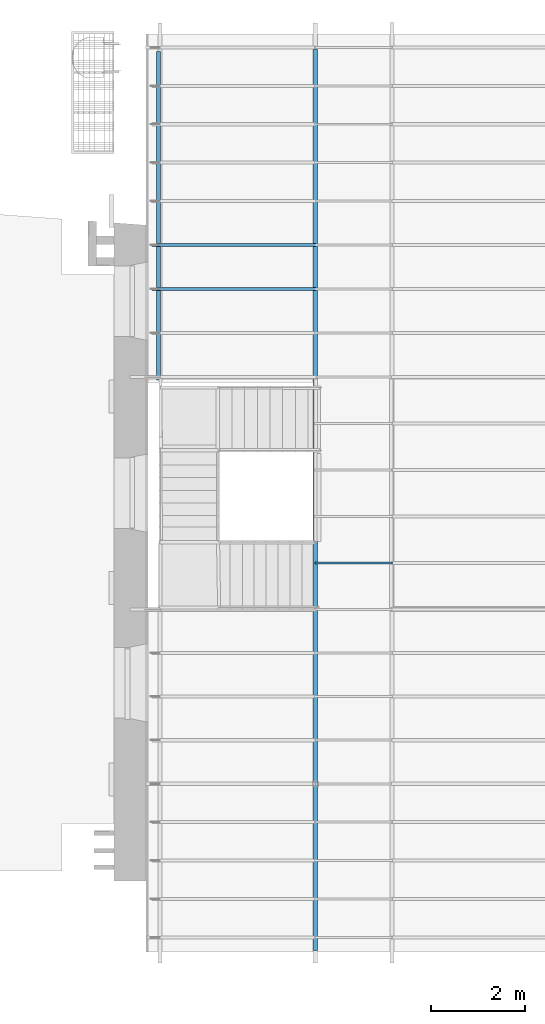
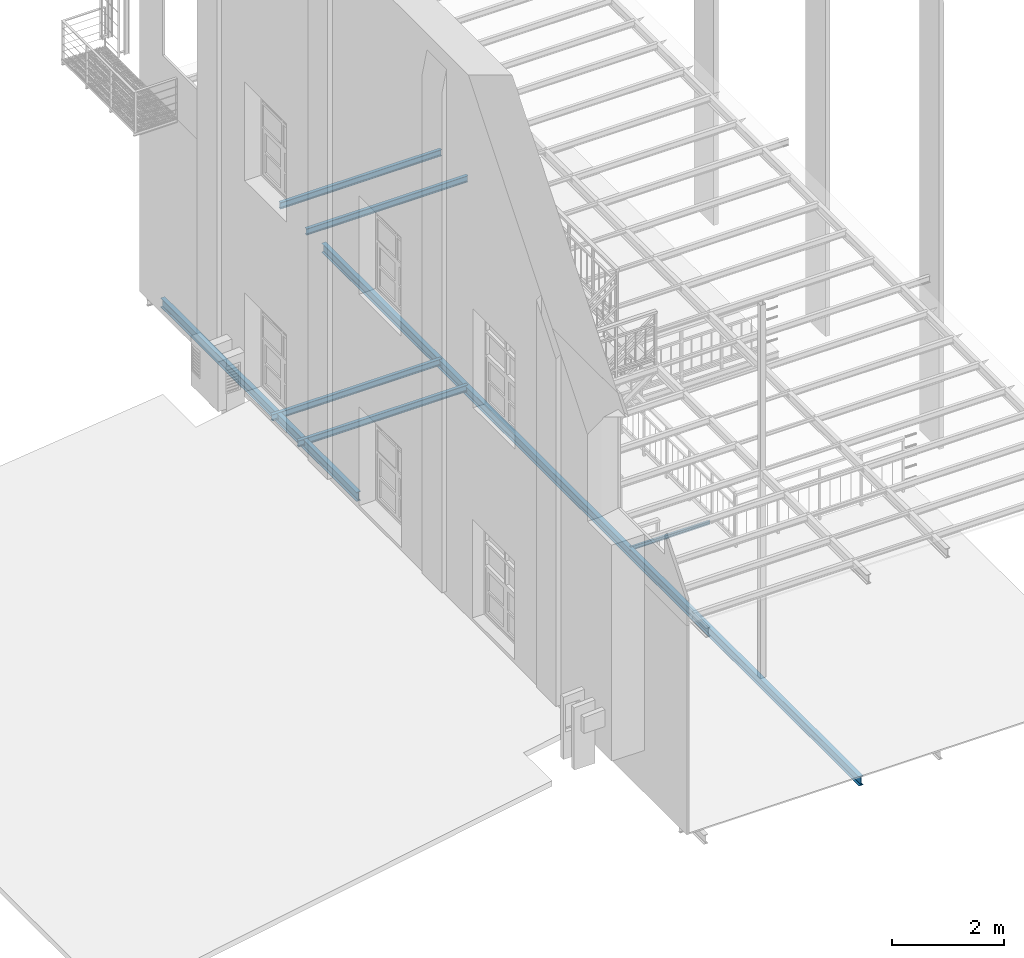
# One storey, part 12 of 33: 7 beams.
"""IFC2X3 building model written with IfcOpenShell, lengths in metres."""

from ifc_helpers import new_model, entity, si_unit, converted_unit, derived_unit, direction, frame, frame_2d, origin, place, context, subcontext, project, spatial, polyline, circle_curve, parameter, trimmed, segment, composite_curve, outline, extrude, material, type_object, element, save


model = new_model("IFC2X3")

# Units and contexts
model_context = context("Model", 3, precision=1e-05, world=origin(), true_north=direction((6.12303176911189e-17, 1.0)))
body_context = subcontext(model_context, "Body", "Model", "MODEL_VIEW")
ifc_project = project(units=[si_unit("LENGTHUNIT", "METRE"), si_unit("AREAUNIT", "SQUARE_METRE"), si_unit("VOLUMEUNIT", "CUBIC_METRE"), converted_unit("PLANEANGLEUNIT", "DEGREE", entity("IfcRatioMeasure", 0.0174532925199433), si_unit("PLANEANGLEUNIT", "RADIAN"), dimensions=[0, 0, 0, 0, 0, 0, 0]), si_unit("MASSUNIT", "GRAM", prefix="KILO"), derived_unit("MASSDENSITYUNIT", [(si_unit("MASSUNIT", "GRAM", prefix="KILO"), 1), (si_unit("LENGTHUNIT", "METRE"), -3)]), derived_unit("MOMENTOFINERTIAUNIT", [(si_unit("LENGTHUNIT", "METRE"), 4)]), si_unit("TIMEUNIT", "SECOND"), si_unit("FREQUENCYUNIT", "HERTZ"), si_unit("THERMODYNAMICTEMPERATUREUNIT", "DEGREE_CELSIUS"), derived_unit("THERMALTRANSMITTANCEUNIT", [(si_unit("MASSUNIT", "GRAM", prefix="KILO"), 1), (si_unit("THERMODYNAMICTEMPERATUREUNIT", "KELVIN"), -1), (si_unit("TIMEUNIT", "SECOND"), -3)]), derived_unit("VOLUMETRICFLOWRATEUNIT", [(si_unit("LENGTHUNIT", "METRE"), 3), (si_unit("TIMEUNIT", "SECOND"), -1)]), si_unit("ELECTRICCURRENTUNIT", "AMPERE"), si_unit("ELECTRICVOLTAGEUNIT", "VOLT"), si_unit("POWERUNIT", "WATT"), si_unit("FORCEUNIT", "NEWTON", prefix="KILO"), si_unit("ILLUMINANCEUNIT", "LUX"), si_unit("LUMINOUSFLUXUNIT", "LUMEN"), si_unit("LUMINOUSINTENSITYUNIT", "CANDELA"), derived_unit("USERDEFINED", [(si_unit("MASSUNIT", "GRAM", prefix="KILO"), -1), (si_unit("LENGTHUNIT", "METRE"), -2), (si_unit("TIMEUNIT", "SECOND"), 3), (si_unit("LUMINOUSFLUXUNIT", "LUMEN"), 1)]), derived_unit("LINEARVELOCITYUNIT", [(si_unit("LENGTHUNIT", "METRE"), 1), (si_unit("TIMEUNIT", "SECOND"), -1)]), si_unit("PRESSUREUNIT", "PASCAL"), derived_unit("USERDEFINED", [(si_unit("LENGTHUNIT", "METRE"), -2), (si_unit("MASSUNIT", "GRAM", prefix="KILO"), 1), (si_unit("TIMEUNIT", "SECOND"), -2)]), derived_unit("LINEARFORCEUNIT", [(si_unit("MASSUNIT", "GRAM", prefix="KILO"), 1), (si_unit("LENGTHUNIT", "METRE"), 1), (si_unit("TIMEUNIT", "SECOND"), -2), (si_unit("LENGTHUNIT", "METRE"), -1)]), derived_unit("PLANARFORCEUNIT", [(si_unit("MASSUNIT", "GRAM", prefix="KILO"), 1), (si_unit("LENGTHUNIT", "METRE"), 1), (si_unit("TIMEUNIT", "SECOND"), -2), (si_unit("LENGTHUNIT", "METRE"), -2)])], contexts=[model_context])

# Site, building, storey
site_placement = place(None, origin())
site = spatial("IfcSite", under=ifc_project, at=site_placement, Name="Superficie", CompositionType="ELEMENT")
building_placement = place(site_placement, origin())
building = spatial("IfcBuilding", under=site, at=building_placement, Name="Telegestiones", CompositionType="ELEMENT")
storey_placement = place(building_placement, frame((0.0, 0.0, 4.94)))
storey = spatial("IfcBuildingStorey", under=building, at=storey_placement, Name="Nivel 1_NPT", CompositionType="ELEMENT", Elevation=4.94)

# Beams
ifc_material = material(Name="Metal - Acero - 345 MPa")
beam_type_1 = type_object("IfcBeamType", Name="IPN - Secciones en I con alas cónicas:IPN 200", PredefinedType="NOTDEFINED")
beam_1_placement = place(storey_placement, frame((9.64481262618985, 13.4536072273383, 0.0), z_axis=(0.0, 0.0, 1.0), x_axis=(0.0, -1.0, 0.0)))
element("IfcBeam", 1, at=beam_1_placement, inside=storey, type_object=beam_type_1, material=ifc_material, Name="IPN - Secciones en I con alas cónicas:IPN 200", ObjectType="IPN - Secciones en I con alas cónicas:IPN 200", context=body_context, shape_type="SweptSolid", body=[
    extrude(outline(composite_curve([segment(polyline([(0.0957638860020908, -0.0450000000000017), (0.100000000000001, -0.0450000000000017)]), True, "CONTINUOUS"), segment(polyline([(0.100000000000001, -0.0450000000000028), (0.100000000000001, 0.0449999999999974)]), True, "CONTINUOUS"), segment(polyline([(0.100000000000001, 0.0449999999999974), (0.0957638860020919, 0.0449999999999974)]), True, "CONTINUOUS"), segment(trimmed(circle_curve(frame_2d((0.095763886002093, 0.0404999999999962), x_axis=(0.0, 1.0)), 0.00450000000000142), [parameter(0.0)], [parameter(82.0303896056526)], True, "PARAMETER"), True, "CONTINUOUS"), segment(polyline([(0.0913073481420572, 0.0411239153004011), (0.0869794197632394, 0.0102101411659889)]), True, "CONTINUOUS"), segment(trimmed(circle_curve(frame_2d((0.0795518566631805, 0.0112499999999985), x_axis=(0.990341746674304, -0.138647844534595)), 0.00750000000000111), [parameter(277.96961039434)], [parameter(0.0)], True, "PARAMETER"), False, "CONTINUOUS"), segment(polyline([(0.0795518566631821, 0.00374999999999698), (-0.079551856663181, 0.00374999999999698)]), True, "CONTINUOUS"), segment(trimmed(circle_curve(frame_2d((-0.07955185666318, 0.0112499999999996), x_axis=(0.0, -1.0)), 0.00750000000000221), [parameter(277.96961039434)], [parameter(0.0)], True, "PARAMETER"), False, "CONTINUOUS"), segment(polyline([(-0.0869794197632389, 0.0102101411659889), (-0.0913073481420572, 0.0411239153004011)]), True, "CONTINUOUS"), segment(trimmed(circle_curve(frame_2d((-0.0957638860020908, 0.0404999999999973), x_axis=(0.990341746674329, 0.138647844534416)), 0.00450000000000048), [parameter(0.0)], [parameter(82.0303896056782)], True, "PARAMETER"), True, "CONTINUOUS"), segment(polyline([(-0.0957638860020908, 0.0449999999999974), (-0.0999999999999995, 0.0449999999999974)]), True, "CONTINUOUS"), segment(polyline([(-0.0999999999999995, 0.0449999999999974), (-0.0999999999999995, -0.0450000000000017)]), True, "CONTINUOUS"), segment(polyline([(-0.0999999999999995, -0.0450000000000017), (-0.0957638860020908, -0.0450000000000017)]), True, "CONTINUOUS"), segment(trimmed(circle_curve(frame_2d((-0.0957638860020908, -0.0405000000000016), x_axis=(0.0, -1.0)), 0.00450000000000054), [parameter(0.0)], [parameter(82.0303896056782)], True, "PARAMETER"), True, "CONTINUOUS"), segment(polyline([(-0.0913073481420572, -0.0411239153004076), (-0.0869794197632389, -0.0102101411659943)]), True, "CONTINUOUS"), segment(trimmed(circle_curve(frame_2d((-0.07955185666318, -0.0112500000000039), x_axis=(-0.990341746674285, 0.138647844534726)), 0.00750000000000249), [parameter(277.969610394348)], [parameter(0.0)], True, "PARAMETER"), False, "CONTINUOUS"), segment(polyline([(-0.079551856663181, -0.0037500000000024), (0.079551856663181, -0.0037500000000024)]), True, "CONTINUOUS"), segment(trimmed(circle_curve(frame_2d((0.0795518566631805, -0.0112500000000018), x_axis=(0.0, 1.0)), 0.0075000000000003), [parameter(277.969610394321)], [parameter(0.0)], True, "PARAMETER"), False, "CONTINUOUS"), segment(polyline([(0.0869794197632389, -0.0102101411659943), (0.0913073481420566, -0.0411239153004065)]), True, "CONTINUOUS"), segment(trimmed(circle_curve(frame_2d((0.0957638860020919, -0.0405000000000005), x_axis=(-0.9903417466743, -0.138647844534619)), 0.00450000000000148), [parameter(0.0)], [parameter(82.0303896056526)], True, "PARAMETER"), True, "CONTINUOUS")], self_intersect=False)), frame((0.0419999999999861, 0.0, -0.130000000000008), z_axis=(1.0, 0.0, 0.0), x_axis=(0.0, 0.0, -1.0)), (0.0, 0.0, 1.0), 19.193),
])
beam_2_placement = place(storey_placement, frame((6.30181262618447, 6.43560722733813, 0.0), z_axis=(0.0, 0.0, 1.0), x_axis=(0.0, 1.0, 0.0)))
element("IfcBeam", 2, at=beam_2_placement, inside=storey, type_object=beam_type_1, material=ifc_material, Name="IPN - Secciones en I con alas cónicas:IPN 200", ObjectType="IPN - Secciones en I con alas cónicas:IPN 200", context=body_context, shape_type="SweptSolid", body=[
    extrude(outline(composite_curve([segment(polyline([(0.0957638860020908, -0.0449999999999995), (0.100000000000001, -0.0449999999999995)]), True, "CONTINUOUS"), segment(polyline([(0.100000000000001, -0.0449999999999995), (0.100000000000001, 0.0449999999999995)]), True, "CONTINUOUS"), segment(polyline([(0.100000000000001, 0.0449999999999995), (0.0957638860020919, 0.0449999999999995)]), True, "CONTINUOUS"), segment(trimmed(circle_curve(frame_2d((0.095763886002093, 0.0404999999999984), x_axis=(0.0, 1.0)), 0.00450000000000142), [parameter(0.0)], [parameter(82.0303896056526)], True, "PARAMETER"), True, "CONTINUOUS"), segment(polyline([(0.0913073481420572, 0.0411239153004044), (0.0869794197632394, 0.0102101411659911)]), True, "CONTINUOUS"), segment(trimmed(circle_curve(frame_2d((0.0795518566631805, 0.0112500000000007), x_axis=(0.990341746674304, -0.138647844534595)), 0.00750000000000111), [parameter(277.96961039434)], [parameter(0.0)], True, "PARAMETER"), False, "CONTINUOUS"), segment(polyline([(0.0795518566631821, 0.00374999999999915), (-0.079551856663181, 0.00374999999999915)]), True, "CONTINUOUS"), segment(trimmed(circle_curve(frame_2d((-0.07955185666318, 0.0112500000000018), x_axis=(0.0, -1.0)), 0.00750000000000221), [parameter(277.96961039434)], [parameter(0.0)], True, "PARAMETER"), False, "CONTINUOUS"), segment(polyline([(-0.0869794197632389, 0.0102101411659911), (-0.0913073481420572, 0.0411239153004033)]), True, "CONTINUOUS"), segment(trimmed(circle_curve(frame_2d((-0.0957638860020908, 0.0404999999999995), x_axis=(0.990341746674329, 0.138647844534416)), 0.00450000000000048), [parameter(0.0)], [parameter(82.0303896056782)], True, "PARAMETER"), True, "CONTINUOUS"), segment(polyline([(-0.0957638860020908, 0.0449999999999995), (-0.0999999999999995, 0.0449999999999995)]), True, "CONTINUOUS"), segment(polyline([(-0.0999999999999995, 0.0449999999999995), (-0.0999999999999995, -0.0449999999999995)]), True, "CONTINUOUS"), segment(polyline([(-0.0999999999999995, -0.0449999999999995), (-0.0957638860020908, -0.0449999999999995)]), True, "CONTINUOUS"), segment(trimmed(circle_curve(frame_2d((-0.0957638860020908, -0.0404999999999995), x_axis=(0.0, -1.0)), 0.00450000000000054), [parameter(0.0)], [parameter(82.0303896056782)], True, "PARAMETER"), True, "CONTINUOUS"), segment(polyline([(-0.0913073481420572, -0.0411239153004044), (-0.0869794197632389, -0.0102101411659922)]), True, "CONTINUOUS"), segment(trimmed(circle_curve(frame_2d((-0.07955185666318, -0.0112500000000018), x_axis=(-0.990341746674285, 0.138647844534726)), 0.00750000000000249), [parameter(277.969610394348)], [parameter(0.0)], True, "PARAMETER"), False, "CONTINUOUS"), segment(polyline([(-0.079551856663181, -0.00375000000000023), (0.079551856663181, -0.00375000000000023)]), True, "CONTINUOUS"), segment(trimmed(circle_curve(frame_2d((0.0795518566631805, -0.0112499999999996), x_axis=(0.0, 1.0)), 0.0075000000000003), [parameter(277.969610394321)], [parameter(0.0)], True, "PARAMETER"), False, "CONTINUOUS"), segment(polyline([(0.0869794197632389, -0.0102101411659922), (0.0913073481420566, -0.0411239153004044)]), True, "CONTINUOUS"), segment(trimmed(circle_curve(frame_2d((0.0957638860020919, -0.0404999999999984), x_axis=(-0.9903417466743, -0.138647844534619)), 0.00450000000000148), [parameter(0.0)], [parameter(82.0303896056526)], True, "PARAMETER"), True, "CONTINUOUS")], self_intersect=False)), frame((-0.0600000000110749, 0.0, -0.130000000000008), z_axis=(1.0, 0.0, 0.0), x_axis=(0.0, 0.0, -1.0)), (0.0, 0.0, 1.0), 6.995),
])
beam_type_2 = type_object("IfcBeamType", Name="IPN - Secciones en I con alas cónicas:IPN 140", PredefinedType="NOTDEFINED")
beam_3_placement = place(storey_placement, frame((6.16481262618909, 9.25260722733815, 0.0)))
element("IfcBeam", 3, at=beam_3_placement, inside=storey, type_object=beam_type_2, material=ifc_material, Name="IPN - Secciones en I con alas cónicas:IPN 140", ObjectType="IPN - Secciones en I con alas cónicas:IPN 140", context=body_context, shape_type="SweptSolid", body=[
    extrude(outline(composite_curve([segment(polyline([(0.0666671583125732, -0.0330000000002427), (0.0699999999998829, -0.0330000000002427)]), True, "CONTINUOUS"), segment(polyline([(0.0699999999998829, -0.0330000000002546), (0.0700000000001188, 0.0329999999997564)]), True, "CONTINUOUS"), segment(polyline([(0.0700000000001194, 0.0329999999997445), (0.0666671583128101, 0.0329999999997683)]), True, "CONTINUOUS"), segment(trimmed(circle_curve(frame_2d((0.0666671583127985, 0.0295999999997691), x_axis=(0.0, 1.0)), 0.00340000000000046), [parameter(0.0)], [parameter(82.0303896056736)], True, "PARAMETER"), True, "CONTINUOUS"), segment(polyline([(0.0632999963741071, 0.030071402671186), (0.0601763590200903, 0.00775970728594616)]), True, "CONTINUOUS"), segment(trimmed(circle_curve(frame_2d((0.0545314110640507, 0.00854999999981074), x_axis=(0.990341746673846, -0.138647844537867)), 0.00569999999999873), [parameter(277.969610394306)], [parameter(0.0)], True, "PARAMETER"), False, "CONTINUOUS"), segment(polyline([(0.0545314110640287, 0.00284999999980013), (-0.0545314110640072, 0.00285000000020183)]), True, "CONTINUOUS"), segment(trimmed(circle_curve(frame_2d((-0.0545314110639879, 0.00855000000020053), x_axis=(0.0, -1.0)), 0.00569999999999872), [parameter(277.969610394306)], [parameter(0.0)], True, "PARAMETER"), False, "CONTINUOUS"), segment(polyline([(-0.0601763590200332, 0.00775970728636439), (-0.06329999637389, 0.0300714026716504)]), True, "CONTINUOUS"), segment(trimmed(circle_curve(frame_2d((-0.0666671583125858, 0.0296000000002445), x_axis=(0.990341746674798, 0.138647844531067)), 0.00340000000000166), [parameter(0.0)], [parameter(82.0303896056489)], True, "PARAMETER"), True, "CONTINUOUS"), segment(polyline([(-0.0666671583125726, 0.0330000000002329), (-0.0699999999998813, 0.0330000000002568)]), True, "CONTINUOUS"), segment(polyline([(-0.0699999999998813, 0.0330000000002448), (-0.0700000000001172, -0.0329999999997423)]), True, "CONTINUOUS"), segment(polyline([(-0.0700000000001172, -0.0329999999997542), (-0.0666671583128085, -0.0329999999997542)]), True, "CONTINUOUS"), segment(trimmed(circle_curve(frame_2d((-0.0666671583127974, -0.0295999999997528), x_axis=(0.0, -1.0)), 0.00340000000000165), [parameter(0.0)], [parameter(82.0303896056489)], True, "PARAMETER"), True, "CONTINUOUS"), segment(polyline([(-0.0632999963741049, -0.0300714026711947), (-0.0601763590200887, -0.007759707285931)]), True, "CONTINUOUS"), segment(trimmed(circle_curve(frame_2d((-0.054531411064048, -0.00854999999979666), x_axis=(-0.990341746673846, 0.138647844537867)), 0.00569999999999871), [parameter(277.969610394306)], [parameter(0.0)], True, "PARAMETER"), False, "CONTINUOUS"), segment(polyline([(-0.0545314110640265, -0.00284999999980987), (0.0545314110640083, -0.00285000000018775)]), True, "CONTINUOUS"), segment(trimmed(circle_curve(frame_2d((0.054531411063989, -0.00855000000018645), x_axis=(0.0, 1.0)), 0.0056999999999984), [parameter(277.969610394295)], [parameter(0.0)], True, "PARAMETER"), False, "CONTINUOUS"), segment(polyline([(0.0601763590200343, -0.00775970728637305), (0.0632999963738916, -0.0300714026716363)]), True, "CONTINUOUS"), segment(trimmed(circle_curve(frame_2d((0.0666671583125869, -0.0296000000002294), x_axis=(-0.990341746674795, -0.138647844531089)), 0.00340000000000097), [parameter(0.0)], [parameter(82.0303896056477)], True, "PARAMETER"), True, "CONTINUOUS")], self_intersect=False)), frame((0.0, 0.0, -0.100000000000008), z_axis=(1.0, 0.0, 0.0), x_axis=(0.0, 0.0, -1.0)), (0.0, 0.0, 1.0), 3.495),
])
beam_4_placement = place(storey_placement, frame((6.16481262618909, 8.31360722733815, 0.0)))
element("IfcBeam", 4, at=beam_4_placement, inside=storey, type_object=beam_type_2, material=ifc_material, Name="IPN - Secciones en I con alas cónicas:IPN 140", ObjectType="IPN - Secciones en I con alas cónicas:IPN 140", context=body_context, shape_type="SweptSolid", body=[
    extrude(outline(composite_curve([segment(polyline([(0.0666671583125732, -0.0330000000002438), (0.0699999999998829, -0.0330000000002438)]), True, "CONTINUOUS"), segment(polyline([(0.0699999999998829, -0.0330000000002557), (0.0700000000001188, 0.0329999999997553)]), True, "CONTINUOUS"), segment(polyline([(0.0700000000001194, 0.0329999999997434), (0.0666671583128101, 0.0329999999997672)]), True, "CONTINUOUS"), segment(trimmed(circle_curve(frame_2d((0.0666671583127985, 0.029599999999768), x_axis=(0.0, 1.0)), 0.00340000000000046), [parameter(0.0)], [parameter(82.0303896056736)], True, "PARAMETER"), True, "CONTINUOUS"), segment(polyline([(0.0632999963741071, 0.0300714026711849), (0.0601763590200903, 0.00775970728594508)]), True, "CONTINUOUS"), segment(trimmed(circle_curve(frame_2d((0.0545314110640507, 0.00854999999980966), x_axis=(0.990341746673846, -0.138647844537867)), 0.00569999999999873), [parameter(277.969610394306)], [parameter(0.0)], True, "PARAMETER"), False, "CONTINUOUS"), segment(polyline([(0.0545314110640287, 0.00284999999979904), (-0.0545314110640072, 0.00285000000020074)]), True, "CONTINUOUS"), segment(trimmed(circle_curve(frame_2d((-0.0545314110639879, 0.00855000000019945), x_axis=(0.0, -1.0)), 0.00569999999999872), [parameter(277.969610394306)], [parameter(0.0)], True, "PARAMETER"), False, "CONTINUOUS"), segment(polyline([(-0.0601763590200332, 0.00775970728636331), (-0.06329999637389, 0.0300714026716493)]), True, "CONTINUOUS"), segment(trimmed(circle_curve(frame_2d((-0.0666671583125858, 0.0296000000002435), x_axis=(0.990341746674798, 0.138647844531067)), 0.00340000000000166), [parameter(0.0)], [parameter(82.0303896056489)], True, "PARAMETER"), True, "CONTINUOUS"), segment(polyline([(-0.0666671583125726, 0.0330000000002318), (-0.0699999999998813, 0.0330000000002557)]), True, "CONTINUOUS"), segment(polyline([(-0.0699999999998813, 0.0330000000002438), (-0.0700000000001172, -0.0329999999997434)]), True, "CONTINUOUS"), segment(polyline([(-0.0700000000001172, -0.0329999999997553), (-0.0666671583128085, -0.0329999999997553)]), True, "CONTINUOUS"), segment(trimmed(circle_curve(frame_2d((-0.0666671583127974, -0.0295999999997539), x_axis=(0.0, -1.0)), 0.00340000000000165), [parameter(0.0)], [parameter(82.0303896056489)], True, "PARAMETER"), True, "CONTINUOUS"), segment(polyline([(-0.0632999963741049, -0.0300714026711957), (-0.0601763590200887, -0.00775970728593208)]), True, "CONTINUOUS"), segment(trimmed(circle_curve(frame_2d((-0.054531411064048, -0.00854999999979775), x_axis=(-0.990341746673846, 0.138647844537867)), 0.00569999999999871), [parameter(277.969610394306)], [parameter(0.0)], True, "PARAMETER"), False, "CONTINUOUS"), segment(polyline([(-0.0545314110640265, -0.00284999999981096), (0.0545314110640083, -0.00285000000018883)]), True, "CONTINUOUS"), segment(trimmed(circle_curve(frame_2d((0.054531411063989, -0.00855000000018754), x_axis=(0.0, 1.0)), 0.0056999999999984), [parameter(277.969610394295)], [parameter(0.0)], True, "PARAMETER"), False, "CONTINUOUS"), segment(polyline([(0.0601763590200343, -0.00775970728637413), (0.0632999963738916, -0.0300714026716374)]), True, "CONTINUOUS"), segment(trimmed(circle_curve(frame_2d((0.0666671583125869, -0.0296000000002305), x_axis=(-0.990341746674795, -0.138647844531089)), 0.00340000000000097), [parameter(0.0)], [parameter(82.0303896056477)], True, "PARAMETER"), True, "CONTINUOUS")], self_intersect=False)), frame((0.0, 0.0, -0.100000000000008), z_axis=(1.0, 0.0, 0.0), x_axis=(0.0, 0.0, -1.0)), (0.0, 0.0, 1.0), 3.495),
])
beam_5_placement = place(storey_placement, frame((6.33481262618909, 9.25260722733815, 4.56)))
element("IfcBeam", 5, at=beam_5_placement, inside=storey, type_object=beam_type_2, material=ifc_material, Name="IPN - Secciones en I con alas cónicas:IPN 140", ObjectType="IPN - Secciones en I con alas cónicas:IPN 140", context=body_context, shape_type="SweptSolid", body=[
    extrude(outline(composite_curve([segment(polyline([(0.0666671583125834, -0.0330000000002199), (0.0699999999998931, -0.0330000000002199)]), True, "CONTINUOUS"), segment(polyline([(0.0699999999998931, -0.0330000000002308), (0.0700000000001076, 0.0329999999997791)]), True, "CONTINUOUS"), segment(polyline([(0.0700000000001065, 0.0329999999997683), (0.0666671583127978, 0.03299999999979)]), True, "CONTINUOUS"), segment(trimmed(circle_curve(frame_2d((0.0666671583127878, 0.0295999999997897), x_axis=(0.0, 1.0)), 0.00340000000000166), [parameter(0.0)], [parameter(82.0303896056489)], True, "PARAMETER"), True, "CONTINUOUS"), segment(polyline([(0.0632999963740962, 0.0300714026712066), (0.0601763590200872, 0.00775970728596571)]), True, "CONTINUOUS"), segment(trimmed(circle_curve(frame_2d((0.0545314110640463, 0.00854999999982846), x_axis=(0.990341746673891, -0.138647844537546)), 0.00569999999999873), [parameter(277.969610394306)], [parameter(0.0)], True, "PARAMETER"), False, "CONTINUOUS"), segment(polyline([(0.0545314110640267, 0.00284999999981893), (-0.0545314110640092, 0.00285000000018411)]), True, "CONTINUOUS"), segment(trimmed(circle_curve(frame_2d((-0.0545314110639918, 0.00855000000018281), x_axis=(0.0, -1.0)), 0.00569999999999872), [parameter(277.969610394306)], [parameter(0.0)], True, "PARAMETER"), False, "CONTINUOUS"), segment(polyline([(-0.0601763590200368, 0.00775970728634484), (-0.0632999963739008, 0.0300714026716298)]), True, "CONTINUOUS"), segment(trimmed(circle_curve(frame_2d((-0.0666671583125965, 0.0296000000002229), x_axis=(0.990341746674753, 0.138647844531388)), 0.00340000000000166), [parameter(0.0)], [parameter(82.0303896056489)], True, "PARAMETER"), True, "CONTINUOUS"), segment(polyline([(-0.0666671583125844, 0.0330000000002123), (-0.0699999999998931, 0.033000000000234)]), True, "CONTINUOUS"), segment(polyline([(-0.0699999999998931, 0.0330000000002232), (-0.0700000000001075, -0.0329999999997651)]), True, "CONTINUOUS"), segment(polyline([(-0.0700000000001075, -0.0329999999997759), (-0.0666671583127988, -0.0329999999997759)]), True, "CONTINUOUS"), segment(trimmed(circle_curve(frame_2d((-0.0666671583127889, -0.0295999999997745), x_axis=(0.0, -1.0)), 0.00340000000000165), [parameter(0.0)], [parameter(82.0303896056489)], True, "PARAMETER"), True, "CONTINUOUS"), segment(polyline([(-0.0632999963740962, -0.0300714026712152), (-0.0601763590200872, -0.00775970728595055)]), True, "CONTINUOUS"), segment(trimmed(circle_curve(frame_2d((-0.0545314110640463, -0.00854999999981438), x_axis=(-0.990341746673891, 0.138647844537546)), 0.00569999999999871), [parameter(277.969610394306)], [parameter(0.0)], True, "PARAMETER"), False, "CONTINUOUS"), segment(polyline([(-0.0545314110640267, -0.00284999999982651), (0.0545314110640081, -0.00285000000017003)]), True, "CONTINUOUS"), segment(trimmed(circle_curve(frame_2d((0.0545314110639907, -0.00855000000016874), x_axis=(0.0, 1.0)), 0.0056999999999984), [parameter(277.969610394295)], [parameter(0.0)], True, "PARAMETER"), False, "CONTINUOUS"), segment(polyline([(0.0601763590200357, -0.0077597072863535), (0.0632999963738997, -0.0300714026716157)]), True, "CONTINUOUS"), segment(trimmed(circle_curve(frame_2d((0.0666671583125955, -0.0296000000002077), x_axis=(-0.990341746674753, -0.138647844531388)), 0.00340000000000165), [parameter(0.0)], [parameter(82.0303896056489)], True, "PARAMETER"), True, "CONTINUOUS")], self_intersect=False)), frame((0.0, 0.0, -0.100000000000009), z_axis=(1.0, 0.0, 0.0), x_axis=(0.0, 0.0, -1.0)), (0.0, 0.0, 1.0), 3.325),
])
beam_6_placement = place(storey_placement, frame((6.33481262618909, 8.31360722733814, 4.56)))
element("IfcBeam", 6, at=beam_6_placement, inside=storey, type_object=beam_type_2, material=ifc_material, Name="IPN - Secciones en I con alas cónicas:IPN 140", ObjectType="IPN - Secciones en I con alas cónicas:IPN 140", context=body_context, shape_type="SweptSolid", body=[
    extrude(outline(composite_curve([segment(polyline([(0.0666671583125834, -0.033000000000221), (0.0699999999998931, -0.033000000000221)]), True, "CONTINUOUS"), segment(polyline([(0.0699999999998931, -0.0330000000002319), (0.0700000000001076, 0.0329999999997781)]), True, "CONTINUOUS"), segment(polyline([(0.0700000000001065, 0.0329999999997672), (0.0666671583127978, 0.0329999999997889)]), True, "CONTINUOUS"), segment(trimmed(circle_curve(frame_2d((0.0666671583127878, 0.0295999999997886), x_axis=(0.0, 1.0)), 0.00340000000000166), [parameter(0.0)], [parameter(82.0303896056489)], True, "PARAMETER"), True, "CONTINUOUS"), segment(polyline([(0.0632999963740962, 0.0300714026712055), (0.0601763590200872, 0.00775970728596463)]), True, "CONTINUOUS"), segment(trimmed(circle_curve(frame_2d((0.0545314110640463, 0.00854999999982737), x_axis=(0.990341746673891, -0.138647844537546)), 0.00569999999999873), [parameter(277.969610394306)], [parameter(0.0)], True, "PARAMETER"), False, "CONTINUOUS"), segment(polyline([(0.0545314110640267, 0.00284999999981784), (-0.0545314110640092, 0.00285000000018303)]), True, "CONTINUOUS"), segment(trimmed(circle_curve(frame_2d((-0.0545314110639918, 0.00855000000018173), x_axis=(0.0, -1.0)), 0.00569999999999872), [parameter(277.969610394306)], [parameter(0.0)], True, "PARAMETER"), False, "CONTINUOUS"), segment(polyline([(-0.0601763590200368, 0.00775970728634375), (-0.0632999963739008, 0.0300714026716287)]), True, "CONTINUOUS"), segment(trimmed(circle_curve(frame_2d((-0.0666671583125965, 0.0296000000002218), x_axis=(0.990341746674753, 0.138647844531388)), 0.00340000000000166), [parameter(0.0)], [parameter(82.0303896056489)], True, "PARAMETER"), True, "CONTINUOUS"), segment(polyline([(-0.0666671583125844, 0.0330000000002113), (-0.0699999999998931, 0.0330000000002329)]), True, "CONTINUOUS"), segment(polyline([(-0.0699999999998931, 0.0330000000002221), (-0.0700000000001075, -0.0329999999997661)]), True, "CONTINUOUS"), segment(polyline([(-0.0700000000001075, -0.032999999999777), (-0.0666671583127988, -0.032999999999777)]), True, "CONTINUOUS"), segment(trimmed(circle_curve(frame_2d((-0.0666671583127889, -0.0295999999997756), x_axis=(0.0, -1.0)), 0.00340000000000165), [parameter(0.0)], [parameter(82.0303896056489)], True, "PARAMETER"), True, "CONTINUOUS"), segment(polyline([(-0.0632999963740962, -0.0300714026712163), (-0.0601763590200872, -0.00775970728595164)]), True, "CONTINUOUS"), segment(trimmed(circle_curve(frame_2d((-0.0545314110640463, -0.00854999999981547), x_axis=(-0.990341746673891, 0.138647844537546)), 0.00569999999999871), [parameter(277.969610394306)], [parameter(0.0)], True, "PARAMETER"), False, "CONTINUOUS"), segment(polyline([(-0.0545314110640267, -0.00284999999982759), (0.0545314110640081, -0.00285000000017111)]), True, "CONTINUOUS"), segment(trimmed(circle_curve(frame_2d((0.0545314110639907, -0.00855000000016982), x_axis=(0.0, 1.0)), 0.0056999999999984), [parameter(277.969610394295)], [parameter(0.0)], True, "PARAMETER"), False, "CONTINUOUS"), segment(polyline([(0.0601763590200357, -0.00775970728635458), (0.0632999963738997, -0.0300714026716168)]), True, "CONTINUOUS"), segment(trimmed(circle_curve(frame_2d((0.0666671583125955, -0.0296000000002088), x_axis=(-0.990341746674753, -0.138647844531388)), 0.00340000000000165), [parameter(0.0)], [parameter(82.0303896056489)], True, "PARAMETER"), True, "CONTINUOUS")], self_intersect=False)), frame((0.0, 0.0, -0.100000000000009), z_axis=(1.0, 0.0, 0.0), x_axis=(0.0, 0.0, -1.0)), (0.0, 0.0, 1.0), 3.325),
])
beam_type_3 = type_object("IfcBeamType", Name="IPN - Secciones en I con alas cónicas:IPN 80", PredefinedType="NOTDEFINED")
beam_7_placement = place(storey_placement, frame((9.64481262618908, 2.47479669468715, 0.0)))
element("IfcBeam", 7, at=beam_7_placement, inside=storey, type_object=beam_type_3, material=ifc_material, Name="IPN - Secciones en I con alas cónicas:IPN 80", ObjectType="IPN - Secciones en I con alas cónicas:IPN 80", context=body_context, shape_type="SweptSolid", body=[
    extrude(outline(composite_curve([segment(polyline([(0.0375704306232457, -0.0210000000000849), (0.0399999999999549, -0.0210000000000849)]), True, "CONTINUOUS"), segment(polyline([(0.0399999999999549, -0.0210000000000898), (0.0400000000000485, 0.0209999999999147)]), True, "CONTINUOUS"), segment(polyline([(0.0400000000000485, 0.0209999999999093), (0.0375704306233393, 0.0209999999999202)]), True, "CONTINUOUS"), segment(trimmed(circle_curve(frame_2d((0.0375704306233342, 0.0186999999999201), x_axis=(0.0, 1.0)), 0.00229999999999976), [parameter(0.0)], [parameter(82.0303896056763)], True, "PARAMETER"), True, "CONTINUOUS"), segment(polyline([(0.0352926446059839, 0.019018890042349), (0.0333732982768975, 0.0053092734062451)]), True, "CONTINUOUS"), segment(trimmed(circle_curve(frame_2d((0.0295109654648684, 0.00584999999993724), x_axis=(0.990341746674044, -0.138647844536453)), 0.00389999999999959), [parameter(277.969610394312)], [parameter(0.0)], True, "PARAMETER"), False, "CONTINUOUS"), segment(polyline([(0.0295109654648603, 0.00194999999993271), (-0.0295109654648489, 0.00195000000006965)]), True, "CONTINUOUS"), segment(trimmed(circle_curve(frame_2d((-0.0295109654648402, 0.00585000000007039), x_axis=(0.0, -1.0)), 0.00390000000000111), [parameter(277.969610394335)], [parameter(0.0)], True, "PARAMETER"), False, "CONTINUOUS"), segment(polyline([(-0.0333732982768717, 0.00530927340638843), (-0.035292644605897, 0.0190188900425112)]), True, "CONTINUOUS"), segment(trimmed(circle_curve(frame_2d((-0.0375704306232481, 0.0187000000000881), x_axis=(0.990341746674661, 0.138647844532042)), 0.00229999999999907), [parameter(0.0)], [parameter(82.0303896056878)], True, "PARAMETER"), True, "CONTINUOUS"), segment(polyline([(-0.037570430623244, 0.0210000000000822), (-0.0399999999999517, 0.021000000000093)]), True, "CONTINUOUS"), segment(polyline([(-0.0399999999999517, 0.0210000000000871), (-0.0400000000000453, -0.0209999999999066)]), True, "CONTINUOUS"), segment(polyline([(-0.0400000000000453, -0.020999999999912), (-0.0375704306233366, -0.020999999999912)]), True, "CONTINUOUS"), segment(trimmed(circle_curve(frame_2d((-0.0375704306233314, -0.0186999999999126), x_axis=(0.0, -1.0)), 0.00229999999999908), [parameter(0.0)], [parameter(82.0303896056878)], True, "PARAMETER"), True, "CONTINUOUS"), segment(polyline([(-0.0352926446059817, -0.0190188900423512), (-0.0333732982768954, -0.00530927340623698)]), True, "CONTINUOUS"), segment(trimmed(circle_curve(frame_2d((-0.0295109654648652, -0.00584999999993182), x_axis=(-0.990341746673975, 0.13864784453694)), 0.00390000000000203), [parameter(277.969610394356)], [parameter(0.0)], True, "PARAMETER"), False, "CONTINUOUS"), segment(polyline([(-0.0295109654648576, -0.00194999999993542), (0.0295109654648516, -0.00195000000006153)]), True, "CONTINUOUS"), segment(trimmed(circle_curve(frame_2d((0.0295109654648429, -0.00585000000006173), x_axis=(0.0, 1.0)), 0.00389999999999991), [parameter(277.96961039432)], [parameter(0.0)], True, "PARAMETER"), False, "CONTINUOUS"), segment(polyline([(0.0333732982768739, -0.00530927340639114), (0.0352926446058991, -0.0190188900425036)]), True, "CONTINUOUS"), segment(trimmed(circle_curve(frame_2d((0.0375704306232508, -0.0187000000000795), x_axis=(-0.990341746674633, -0.138647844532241)), 0.00229999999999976), [parameter(0.0)], [parameter(82.0303896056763)], True, "PARAMETER"), True, "CONTINUOUS")], self_intersect=False)), frame((-0.00399999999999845, 0.0, -0.0700000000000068), z_axis=(1.0, 0.0, 0.0), x_axis=(0.0, 0.0, -1.0)), (0.0, 0.0, 1.0), 1.649),
])

save(model, "model.ifc")
